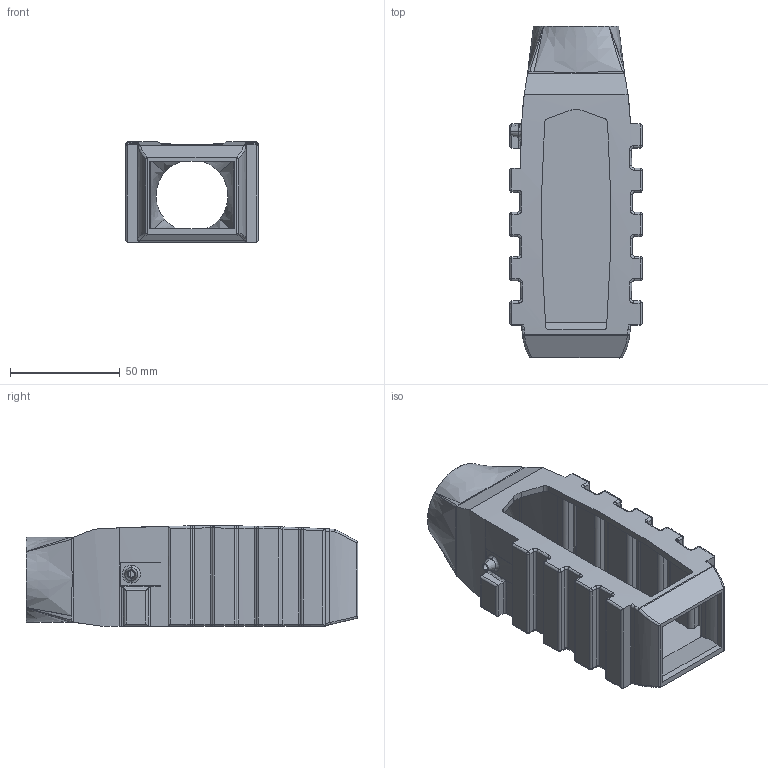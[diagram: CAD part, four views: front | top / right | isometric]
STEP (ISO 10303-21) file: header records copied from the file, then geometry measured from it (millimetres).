
FILE_DESCRIPTION((''),'2;1');
FILE_NAME('6159365040_DIM','2021-05-26T12:05:03',('S00000450'),(''),'CREO PARAMETRIC BY PTC INC, 2020281','CREO PARAMETRIC BY PTC INC, 2020281','');
FILE_SCHEMA(('AP242_MANAGED_MODEL_BASED_3D_ENGINEERING_MIM_LF { 1 0 10303 442 1 1 4 }'));
Length unit declared in the file: millimetre
Products named in the file (1): 6159365040_DIM
Bounding box: 60.54 x 151.53 x 45.87 mm (x, y, z)
Surface area: 55600.9 mm2
Topology: 2 solids, 3 shells, 367 faces, 928 edges, 530 vertices
Faces by surface type: cylinder 146, plane 101, bspline 52, sphere 37, torus 26, extrusion 3, cone 2
Entity records: 18195 total; most frequent: CARTESIAN_POINT 7440, ORIENTED_EDGE 1776, DIRECTION 1456, PRESENTATION_STYLE_ASSIGNMENT 896, STYLED_ITEM 896, CURVE_STYLE 893, EDGE_CURVE 893, AXIS2_PLACEMENT_3D 540
